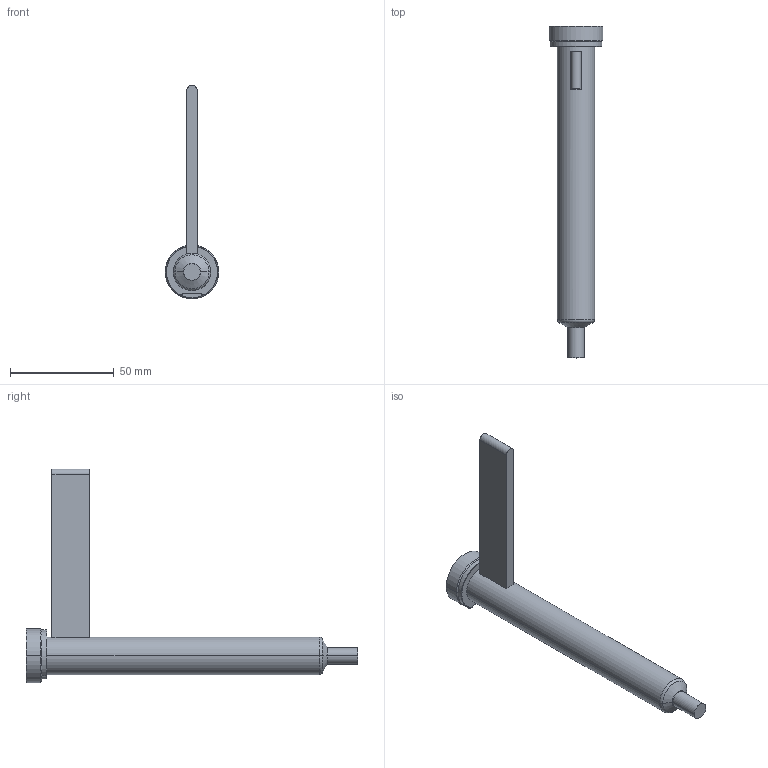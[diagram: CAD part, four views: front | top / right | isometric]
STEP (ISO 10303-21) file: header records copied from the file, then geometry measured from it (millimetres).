
FILE_DESCRIPTION((''),'2;1');
FILE_NAME('EO04_PG-FBE_WR_140_COT','2024-02-19T11:48:51',('sundharh'),(''),'CREO PARAMETRIC BY PTC INC, 2023154','CREO PARAMETRIC BY PTC INC, 2023154','');
FILE_SCHEMA(('CONFIG_CONTROL_DESIGN'));
Length unit declared in the file: millimetre
Products named in the file (1): EO04_PG-FBE_WR_140_COT
Bounding box: 26 x 160 x 103 mm (x, y, z)
Volume: 47242.2 mm3; surface area: 13414 mm2
Topology: 1 solids, 1 shells, 31 faces, 67 edges, 40 vertices
Faces by surface type: cylinder 11, plane 9, torus 7, cone 4
Entity records: 961 total; most frequent: CARTESIAN_POINT 228, DIRECTION 159, ORIENTED_EDGE 134, AXIS2_PLACEMENT_3D 67, EDGE_CURVE 67, VERTEX_POINT 40, CIRCLE 36, EDGE_LOOP 33
